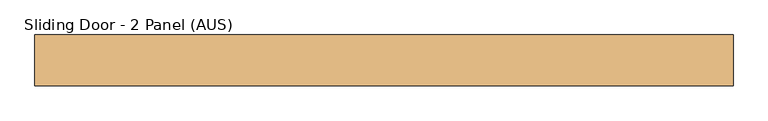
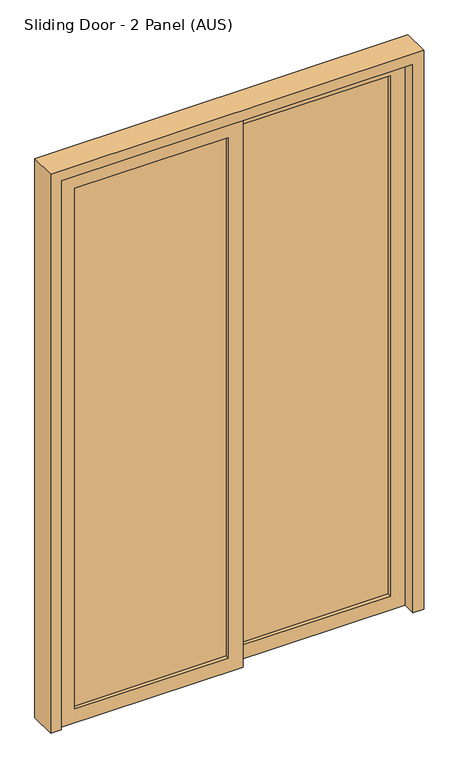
"""IFC4 building model written with IfcOpenShell, lengths in millimetres: door geometry, Sliding Door - 2 Panel (AUS) : elavator door."""

from ifc_helpers import new_model, si_unit, frame, origin, place, context, project, spatial, polyline, outline, extrude, source, transform, mapped, element, save


def sliding_door_2_panel_aus_ee5771a8(model_context):
    return source(origin(), model_context, "Body", "SweptSolid", [
        extrude(outline(polyline([(680.7580012, 26.6666667), (680.7580012, 13.3333333), (113.2580012, 13.3333333), (113.2580012, 26.6666667), (680.7580012, 26.6666667)])), frame((0.0, 0.0, 55.0), z_axis=(0.0, 0.0, 1.0), x_axis=(1.0, 0.0, 0.0)), (0.0, 0.0, 1.0), 2033.0),
        extrude(outline(polyline([(0.0, 735.7580012), (2143.0, 735.7580012), (2143.0, 58.2580012), (0.0, 58.2580012), (0.0, 735.7580012)]), holes=[polyline([(55.0, 680.7580012), (55.0, 113.2580012), (2088.0, 113.2580012), (2088.0, 680.7580012), (55.0, 680.7580012)])]), frame((0.0, 0.0, 0.0), z_axis=(0.0, 1.0, 0.0), x_axis=(0.0, 0.0, 1.0)), (0.0, 0.0, 1.0), 40.0),
        extrude(outline(polyline([(58.2580012, -13.3333333), (58.2580012, -26.6666667), (-509.2419988, -26.6666667), (-509.2419988, -13.3333333), (58.2580012, -13.3333333)])), frame((0.0, 0.0, 55.0), z_axis=(0.0, 0.0, 1.0), x_axis=(1.0, 0.0, 0.0)), (0.0, 0.0, 1.0), 2033.0),
        extrude(outline(polyline([(0.0, 113.2580012), (2143.0, 113.2580012), (2143.0, -564.2419988), (0.0, -564.2419988), (0.0, 113.2580012)]), holes=[polyline([(55.0, 58.2580012), (55.0, -509.2419988), (2088.0, -509.2419988), (2088.0, 58.2580012), (55.0, 58.2580012)])]), frame((0.0, -40.0, 0.0), z_axis=(0.0, 1.0, 0.0), x_axis=(0.0, 0.0, 1.0)), (0.0, 0.0, 1.0), 40.0),
        extrude(outline(polyline([(0.0, -604.2419988), (0.0, -564.2419988), (2143.0, -564.2419988), (2143.0, 735.7580012), (0.0, 735.7580012), (0.0, 775.7580012), (2183.0, 775.7580012), (2183.0, -604.2419988), (0.0, -604.2419988)])), frame((0.0, -50.0, 0.0), z_axis=(0.0, 1.0, 0.0), x_axis=(0.0, 0.0, 1.0)), (0.0, 0.0, 1.0), 100.0),
    ])


if __name__ == "__main__":
    model = new_model("IFC4")
    model_context = context("Model", 3, world=origin())
    ifc_project = project(units=[si_unit("LENGTHUNIT", "METRE", prefix="MILLI")], contexts=[model_context])
    site = spatial("IfcSite", under=ifc_project)
    building = spatial("IfcBuilding", under=site)
    placement = place(None, origin())
    sliding_door_2_panel_aus_shape = sliding_door_2_panel_aus_ee5771a8(model_context)
    element("IfcDoor", 1, ObjectType="Sliding Door - 2 Panel (AUS) : elavator door", at=placement, inside=building, context=model_context, shape_type="MappedRepresentation", body=[
        mapped(sliding_door_2_panel_aus_shape, transform((0.0, 0.0, 0.0), x_axis=(1.0, 0.0, 0.0), y_axis=(0.0, 1.0, 0.0), z_axis=(0.0, 0.0, 1.0))),
    ])
    save(model, "model.ifc")
